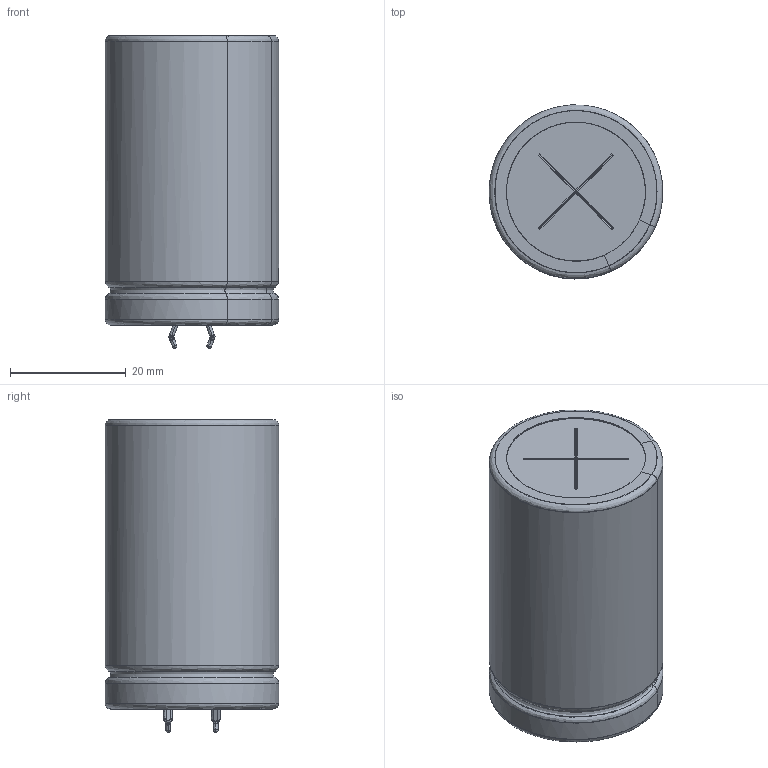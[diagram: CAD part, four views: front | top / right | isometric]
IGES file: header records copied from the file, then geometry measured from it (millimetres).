
Start section: JAMA-IS VERSION  1.0
Bounding box: 29.97 x 29.97 x 54.02 mm (x, y, z)
Surface area: 16554.5 mm2 (no closed solid volume)
Topology: 0 solids, 0 shells, 208 faces, 2354 edges, 2318 vertices
Faces by surface type: bspline 208
